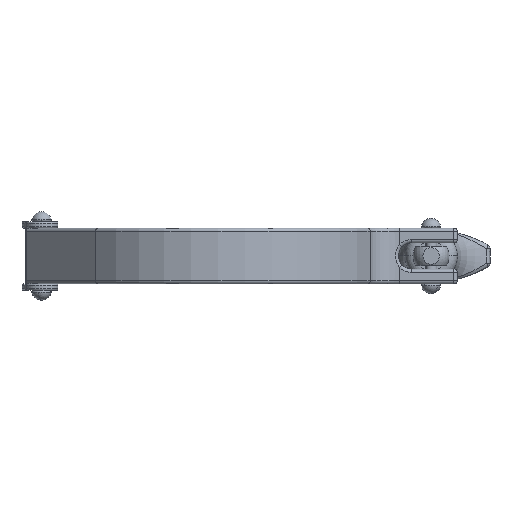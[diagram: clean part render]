
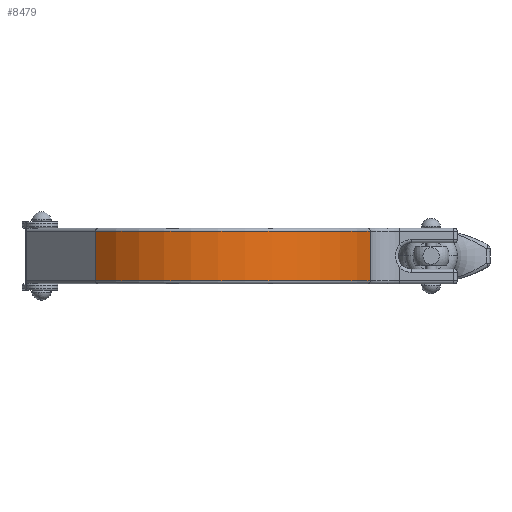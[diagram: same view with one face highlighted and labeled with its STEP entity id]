
A CAD part, front view. The second image highlights one B-rep face of the part: STEP entity #8479.
In plain terms, the highlighted cylindrical face has radius 50.5 mm (diameter 101 mm), a partial arc.
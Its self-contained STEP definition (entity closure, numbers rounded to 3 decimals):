
#593 = VERTEX_POINT ( 'NONE', #6177 ) ;
#1711 = FACE_OUTER_BOUND ( 'NONE', #8549, .T. ) ;
#2008 = EDGE_CURVE ( 'NONE', #593, #8010, #8856, .T. ) ;
#2116 = CARTESIAN_POINT ( 'NONE',  ( -37.484, 8.659, 7.5 ) ) ;
#2144 = VECTOR ( 'NONE', #5007, 1000. ) ;
#2696 = VERTEX_POINT ( 'NONE', #4083 ) ;
#2818 = AXIS2_PLACEMENT_3D ( 'NONE', #7559, #6490, #8508 ) ;
#2993 = ORIENTED_EDGE ( 'NONE', *, *, #4663, .F. ) ;
#3098 = CARTESIAN_POINT ( 'NONE',  ( 46.402, 22.571, 8.5 ) ) ;
#3099 = CYLINDRICAL_SURFACE ( 'NONE', #8929, 50.5 ) ;
#3987 = VERTEX_POINT ( 'NONE', #8550 ) ;
#4031 = DIRECTION ( 'NONE',  ( 0., 0., -1. ) ) ;
#4083 = CARTESIAN_POINT ( 'NONE',  ( 46.402, 22.571, -7.5 ) ) ;
#4231 = AXIS2_PLACEMENT_3D ( 'NONE', #9546, #5645, #4571 ) ;
#4571 = DIRECTION ( 'NONE',  ( 1., 0., 0. ) ) ;
#4663 = EDGE_CURVE ( 'NONE', #593, #2696, #6813, .T. ) ;
#5007 = DIRECTION ( 'NONE',  ( 0., 0., -1. ) ) ;
#5249 = ORIENTED_EDGE ( 'NONE', *, *, #2008, .T. ) ;
#5645 = DIRECTION ( 'NONE',  ( 0., 0., -1. ) ) ;
#6140 = LINE ( 'NONE', #6413, #10618 ) ;
#6177 = CARTESIAN_POINT ( 'NONE',  ( 46.402, 22.571, 7.5 ) ) ;
#6413 = CARTESIAN_POINT ( 'NONE',  ( -37.484, 8.659, 8.5 ) ) ;
#6490 = DIRECTION ( 'NONE',  ( 0., 0., 1. ) ) ;
#6542 = DIRECTION ( 'NONE',  ( 0., 0., -1. ) ) ;
#6813 = LINE ( 'NONE', #3098, #2144 ) ;
#7381 = EDGE_CURVE ( 'NONE', #8010, #3987, #6140, .T. ) ;
#7402 = CIRCLE ( 'NONE', #2818, 50.5 ) ;
#7559 = CARTESIAN_POINT ( 'NONE',  ( 0., 42.5, -7.5 ) ) ;
#8010 = VERTEX_POINT ( 'NONE', #2116 ) ;
#8479 = ADVANCED_FACE ( 'NONE', ( #1711 ), #3099, .T. ) ;
#8508 = DIRECTION ( 'NONE',  ( 1., 0., 0. ) ) ;
#8549 = EDGE_LOOP ( 'NONE', ( #2993, #5249, #9764, #9968 ) ) ;
#8550 = CARTESIAN_POINT ( 'NONE',  ( -37.484, 8.659, -7.5 ) ) ;
#8856 = CIRCLE ( 'NONE', #4231, 50.5 ) ;
#8929 = AXIS2_PLACEMENT_3D ( 'NONE', #10035, #4031, #10962 ) ;
#9213 = EDGE_CURVE ( 'NONE', #3987, #2696, #7402, .T. ) ;
#9546 = CARTESIAN_POINT ( 'NONE',  ( 0., 42.5, 7.5 ) ) ;
#9764 = ORIENTED_EDGE ( 'NONE', *, *, #7381, .T. ) ;
#9968 = ORIENTED_EDGE ( 'NONE', *, *, #9213, .T. ) ;
#10035 = CARTESIAN_POINT ( 'NONE',  ( 0., 42.5, 8.5 ) ) ;
#10618 = VECTOR ( 'NONE', #6542, 1000. ) ;
#10962 = DIRECTION ( 'NONE',  ( 1., 0., 0. ) ) ;
